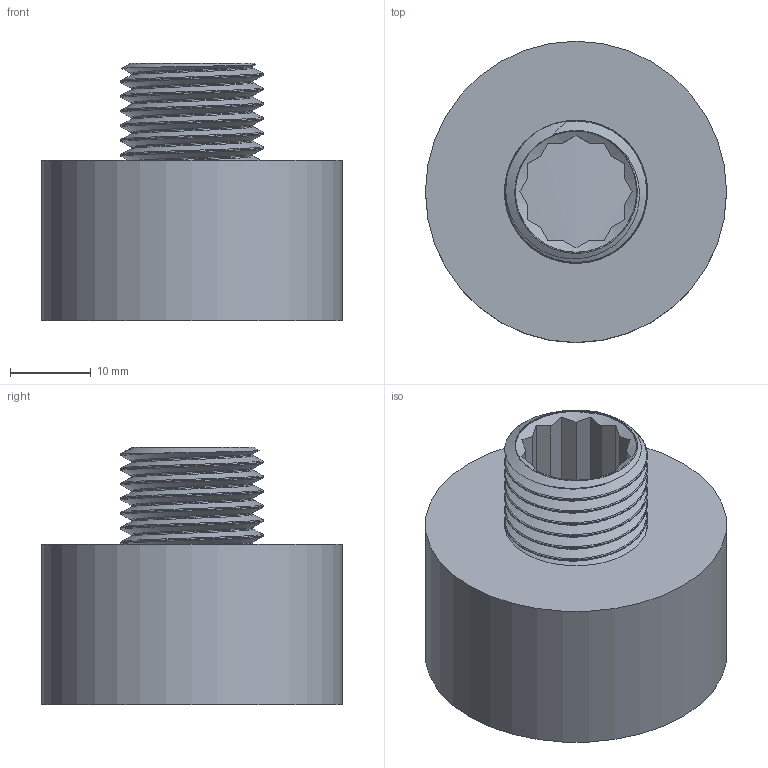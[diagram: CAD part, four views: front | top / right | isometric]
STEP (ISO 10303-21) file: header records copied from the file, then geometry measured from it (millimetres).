
FILE_DESCRIPTION(/* description */ (''),/* implementation_level */ '2;1');
FILE_NAME(/* name */ 'C:\Users\Doom\Desktop\Фадотех\Резьба\P01C 18.03.2020\P01C 18.03.2020.stp',/* time_stamp */ '2022-01-11T22:07:59+02:00',/* author */ ('Doom'),/* organization */ (''),/* preprocessor_version */ 'ST-DEVELOPER v18',/* originating_system */ 'Autodesk Inventor 2020',/* authorisation */ '');
FILE_SCHEMA (('AUTOMOTIVE_DESIGN { 1 0 10303 214 3 1 1 }'));
Length unit declared in the file: millimetre
Products named in the file (1): P01C 18.03.2020
Bounding box: 37.2 x 37.2 x 31.8 mm (x, y, z)
Volume: 9945.2 mm3; surface area: 15131 mm2
Topology: 4 solids, 4 shells, 73 faces, 200 edges, 134 vertices
Faces by surface type: plane 32, cylinder 26, bspline 12, cone 3
Full cylindrical faces by diameter (mm): 14.963 x2, 17.654 x10, 29.956 x7, 33.38 x2, 37.2 x1
Entity records: 11390 total; most frequent: CARTESIAN_POINT 9720, ORIENTED_EDGE 396, DIRECTION 247, EDGE_CURVE 198, VERTEX_POINT 133, AXIS2_PLACEMENT_3D 87, EDGE_LOOP 81, B_SPLINE_CURVE_WITH_KNOTS 76
